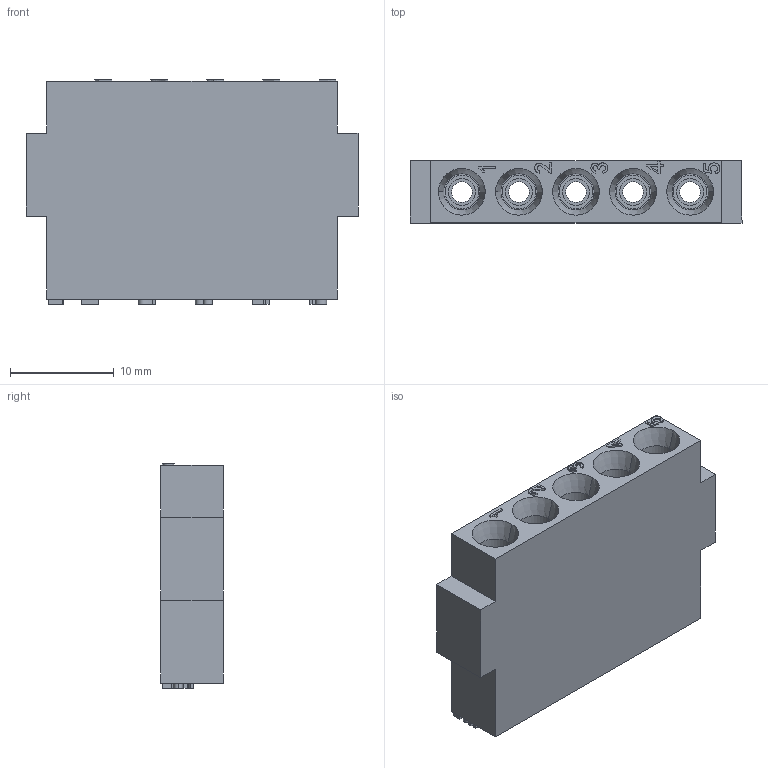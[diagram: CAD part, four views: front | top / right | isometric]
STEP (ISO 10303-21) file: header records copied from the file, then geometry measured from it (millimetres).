
FILE_DESCRIPTION (( 'STEP AP203' ), '1' );
FILE_NAME ('ECM能源组合模块-模块.STEP', '2024-06-11T07:51:45', ( 'Windows 用户' ), ( 'Organization' ), 'SwSTEP 2.0', 'SolidWorks 2018', '' );
FILE_SCHEMA (( 'CONFIG_CONTROL_DESIGN' ));
Length unit declared in the file: millimetre
Products named in the file (1): ECM能源组合模块-模块
Bounding box: 32 x 6 x 21.65 mm (x, y, z)
Volume: 2857.2 mm3; surface area: 2926.4 mm2
Topology: 1 solids, 1 shells, 244 faces, 601 edges, 394 vertices
Faces by surface type: plane 140, cylinder 50, bspline 34, cone 20
Entity records: 11150 total; most frequent: CARTESIAN_POINT 5386, ORIENTED_EDGE 1202, DIRECTION 1075, EDGE_CURVE 601, LINE 413, VECTOR 413, VERTEX_POINT 394, AXIS2_PLACEMENT_3D 331
